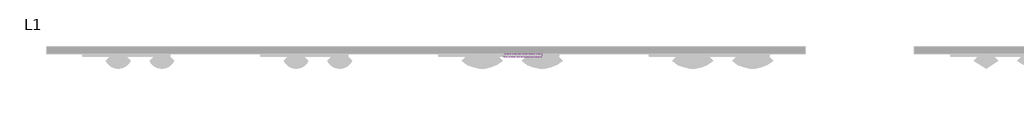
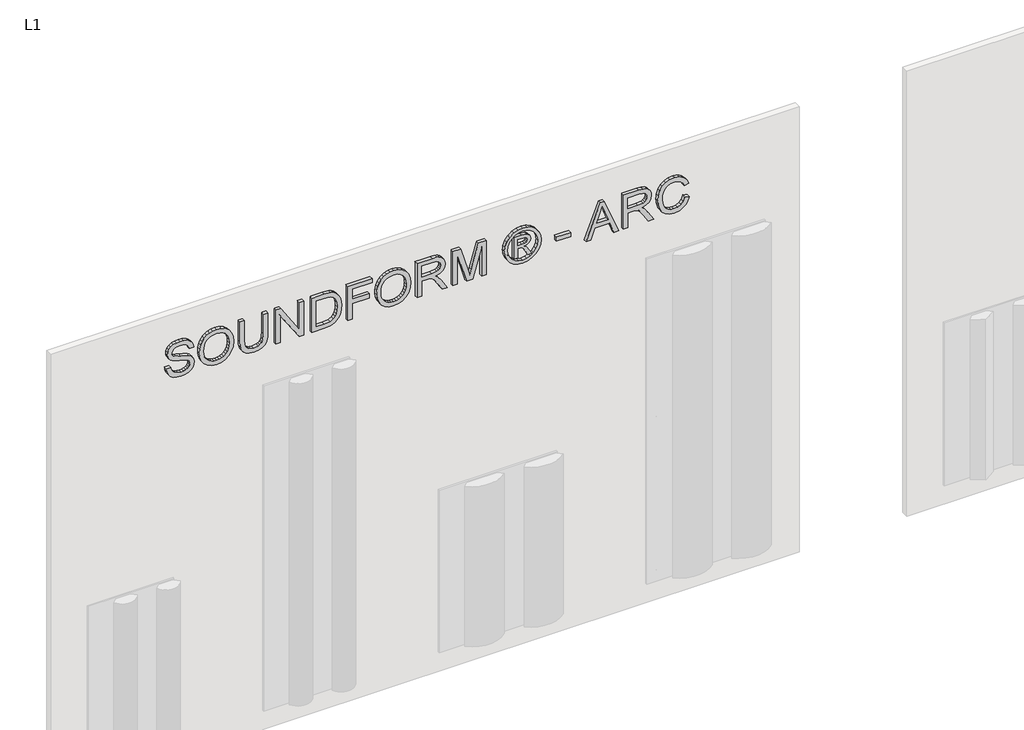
# One storey, part 4 of 17: 1 proxy.
"""IFC4 building model written with IfcOpenShell, lengths in millimetres."""

from ifc_helpers import new_model, si_unit, frame, origin, place, context, project, spatial, polyline, outline, extrude, element, save

model = new_model("IFC4")

# Units and contexts
model_context = context("Model", 3, world=origin())
ifc_project = project(units=[si_unit("LENGTHUNIT", "METRE", prefix="MILLI")], contexts=[model_context])

# Site, building, storey
site = spatial("IfcSite", under=ifc_project)
building = spatial("IfcBuilding", under=site)
storey = spatial("IfcBuildingStorey", under=building, Name="L1", Elevation=0.0)

# Proxy
placement = place(None, origin())
element("IfcBuildingElementProxy", 1, Name="10\" Arial", ObjectType="10\" Arial", at=placement, inside=storey, context=model_context, shape_type="SweptSolid", body=[
    extrude(outline(polyline([(2966.4315697, 2055.3826784), (2940.6727176, 2059.1670805), (2917.7171264, 2069.1498037), (2898.8729843, 2084.7001143), (2885.4484798, 2105.1872787), (2877.4124655, 2130.9071966), (2874.7337941, 2162.1557677), (2877.2177946, 2187.6109331), (2884.6697962, 2210.4030008), (2896.5992283, 2229.3561586), (2912.5155202, 2243.2945943), (2931.0092547, 2251.8679002), (2950.6710145, 2254.7256689), (2969.9044983, 2252.2416683), (2986.7396368, 2244.7896667), (3001.0206932, 2232.1049116), (3012.5919309, 2213.9226505), (3028.6016648, 2157.4836663), (3037.6032467, 2123.4084739), (3046.4179446, 2105.4053101), (3056.2760784, 2097.7897849), (3068.5325576, 2095.2512765), (3082.907056, 2098.8332209), (3095.0077985, 2109.5790539), (3103.2306969, 2128.1584436), (3105.971663, 2155.2410577), (3103.1995495, 2181.7007249), (3094.8832091, 2200.7784721), (3081.1472312, 2212.9882302), (3062.1162051, 2218.8439306), (3062.1162051, 2250.7388091), (3083.2496768, 2247.141291), (3102.0470979, 2238.0929881), (3117.5429006, 2223.796358), (3128.7715175, 2204.4538585), (3135.5927855, 2180.9064677), (3137.8665415, 2153.995164), (3135.6940143, 2129.1551586), (3129.176433, 2106.7134985), (3118.4617472, 2088.0173063), (3103.697907, 2074.4137045), (3086.2787558, 2066.1207247), (3067.5981373, 2063.356398), (3050.8875882, 2065.5912198), (3035.8901429, 2072.2956853), (3022.8861275, 2083.5476627), (3012.1558681, 2099.4250204), (2996.4264603, 2149.4165047), (2984.2478494, 2195.857192), (2977.636826, 2209.4685806), (2969.7643353, 2217.5357422), (2949.8611836, 2222.8307904), (2938.9051059, 2221.0631787), (2928.4629595, 2215.7603437), (2919.3679355, 2206.844417), (2912.4532255, 2194.2375302), (2908.0848108, 2178.6794327), (2906.6286725, 2160.909874), (2908.5520209, 2140.7263962), (2914.3220661, 2122.6609377), (2923.2146323, 2107.8815238), (2934.5055438, 2097.5561798), (2948.7320924, 2090.9373696), (2966.4315697, 2087.2775569), (2966.4315697, 2055.3826784)])), frame((0.0, -50.8, 0.0), z_axis=(0.0, 1.0, 0.0), x_axis=(0.0, 0.0, 1.0)), (0.0, 0.0, 1.0), 25.4),
    extrude(outline(polyline([(3002.9362548, 2290.6074071), (2970.3016269, 2294.2516462), (2939.4268239, 2305.1843633), (2912.5933886, 2323.1875272), (2892.0828637, 2348.0431063), (2879.0710615, 2378.2248809), (2874.7337941, 2412.2066313), (2878.6583592, 2444.2183123), (2890.4320546, 2473.971811), (2909.8368488, 2499.3413213), (2936.6547105, 2518.201037), (2969.2192568, 2529.9046509), (3005.864105, 2533.8058555), (3042.0261693, 2530.0993218), (3074.1390792, 2518.9797206), (3100.9102199, 2500.7896727), (3121.0469766, 2475.8717989), (3133.6616502, 2445.8613346), (3137.8665415, 2412.3935154), (3135.6278262, 2386.7475724), (3128.9116806, 2363.5700564), (3117.7181044, 2342.8609672), (3102.0470979, 2324.6203049), (3082.4203788, 2309.7396621), (3059.3596653, 2299.1106316), (3032.8649573, 2292.7332133), (3002.9362548, 2290.6074071)]), holes=[polyline([(3002.6247814, 2322.5022856), (3028.4790222, 2324.164775), (3050.3502965, 2329.1522432), (3068.2386045, 2337.4646902), (3082.1439462, 2349.1021159), (3092.5685723, 2363.044445), (3100.0147338, 2378.2716019), (3105.971663, 2412.5803994), (3102.8802893, 2437.272455), (3093.6061681, 2459.3948548), (3078.7099517, 2477.7328526), (3058.7522921, 2491.0717019), (3034.3483495, 2499.2011583), (3006.1132837, 2501.910977), (2983.6443697, 2500.3283027), (2963.8930613, 2495.5802797), (2946.8593585, 2487.6669081), (2932.5432613, 2476.5881878), (2921.2056287, 2463.0566143), (2913.1073197, 2447.784683), (2908.2483343, 2430.772394), (2906.6286725, 2412.0197473), (2908.2327607, 2393.5824674), (2913.045025, 2376.7687427), (2921.0654657, 2361.5785732), (2932.2940825, 2348.0119589), (2946.31428, 2336.8514769), (2962.7094623, 2328.8797039), (2981.4796294, 2324.0966402), (3002.6247814, 2322.5022856)])]), frame((0.0, -50.8, 0.0), z_axis=(0.0, 1.0, 0.0), x_axis=(0.0, 0.0, 1.0)), (0.0, 0.0, 1.0), 25.4),
    extrude(outline(polyline([(3133.8796816, 2745.1094254), (2987.7986465, 2745.1094254), (2947.8677537, 2741.0758446), (2933.695713, 2736.0338685), (2923.3859427, 2728.9751021), (2916.054637, 2719.5491376), (2910.8179901, 2707.4055676), (2906.6286725, 2674.9656106), (2908.7466918, 2654.5018068), (2915.1007496, 2637.4642105), (2925.3560121, 2624.3979005), (2939.1776452, 2615.847955), (2959.1353047, 2611.1291327), (2987.7986465, 2609.5561919), (3133.8796816, 2609.5561919), (3133.8796816, 2577.6613134), (2986.6773421, 2577.6613134), (2950.4607699, 2580.0830193), (2922.7941432, 2587.3481368), (2902.1668157, 2600.2742839), (2887.0681416, 2619.6790781), (2877.8173809, 2645.5703064), (2874.7337941, 2677.9557555), (2878.2768042, 2711.0653803), (2888.9058348, 2737.1357058), (2905.1803211, 2756.2134529), (2925.6596986, 2768.3453427), (2952.2050211, 2774.8395636), (2986.6773421, 2777.0043039), (3133.8796816, 2777.0043039), (3133.8796816, 2745.1094254)])), frame((0.0, -50.8, 0.0), z_axis=(0.0, 1.0, 0.0), x_axis=(0.0, 0.0, 1.0)), (0.0, 0.0, 1.0), 25.4),
    extrude(outline(polyline([(2878.7206539, 2832.8203412), (2878.7206539, 2864.7152197), (3080.9291998, 2864.7152197), (2878.7206539, 2998.0258445), (2878.7206539, 3032.1633316), (3133.8796816, 3032.1633316), (3133.8796816, 3000.2684532), (2931.7334304, 3000.2684532), (3133.8796816, 2866.9578283), (3133.8796816, 2832.8203412), (2878.7206539, 2832.8203412)])), frame((0.0, -50.8, 0.0), z_axis=(0.0, 1.0, 0.0), x_axis=(0.0, 0.0, 1.0)), (0.0, 0.0, 1.0), 25.4),
    extrude(outline(polyline([(2878.7206539, 3087.979369), (2878.7206539, 3180.2377967), (2883.0812818, 3221.2588465), (2895.8828394, 3251.7520946), (2919.0253147, 3275.0503066), (2935.6657823, 3284.73713), (2956.1840941, 3292.4928182), (2980.2843501, 3297.5854087), (3007.6706508, 3299.2829388), (3039.9081501, 3296.7755778), (3068.3456735, 3289.2534946), (3092.5160111, 3276.685542), (3111.9519527, 3259.0405726), (3123.1182749, 3241.8783871), (3130.2042953, 3221.5391726), (3133.8796816, 3176.0017582), (3133.8796816, 3087.979369), (2878.7206539, 3087.979369)]), holes=[polyline([(2910.6155323, 3119.8742474), (3101.9848032, 3119.8742474), (3101.9848032, 3175.441106), (3100.7077621, 3202.3212624), (3096.876639, 3220.667047), (3086.224248, 3238.6935713), (3068.5948523, 3253.7766718), (3042.9294423, 3263.9852132), (3008.1690083, 3267.3880604), (2981.9351593, 3265.651596), (2959.9217751, 3260.442203), (2942.0509875, 3252.1180758), (2928.2449281, 3241.0374088), (2915.225339, 3217.3654287), (2910.6155323, 3176.3132316), (2910.6155323, 3119.8742474)])]), frame((0.0, -50.8, 0.0), z_axis=(0.0, 1.0, 0.0), x_axis=(0.0, 0.0, 1.0)), (0.0, 0.0, 1.0), 25.4),
    extrude(outline(polyline([(2878.7206539, 3343.1383967), (2878.7206539, 3375.0332752), (2994.3395883, 3375.0332752), (2994.3395883, 3494.6390695), (3026.2344668, 3494.6390695), (3026.2344668, 3375.0332752), (3101.9848032, 3375.0332752), (3101.9848032, 3514.5733685), (3133.8796816, 3514.5733685), (3133.8796816, 3343.1383967), (2878.7206539, 3343.1383967)])), frame((0.0, -50.8, 0.0), z_axis=(0.0, 1.0, 0.0), x_axis=(0.0, 0.0, 1.0)), (0.0, 0.0, 1.0), 25.4),
    extrude(outline(polyline([(3002.9362548, 3546.468247), (2970.3016269, 3550.112486), (2939.4268239, 3561.0452032), (2912.5933886, 3579.048367), (2892.0828637, 3603.9039461), (2879.0710615, 3634.0857208), (2874.7337941, 3668.0674712), (2878.6583592, 3700.0791522), (2890.4320546, 3729.8326509), (2909.8368488, 3755.2021611), (2936.6547105, 3774.0618769), (2969.2192568, 3785.7654907), (3005.864105, 3789.6666954), (3042.0261693, 3785.9601616), (3074.1390792, 3774.8405604), (3100.9102199, 3756.6505126), (3121.0469766, 3731.7326388), (3133.6616502, 3701.7221745), (3137.8665415, 3668.2543552), (3135.6278262, 3642.6084123), (3128.9116806, 3619.4308962), (3117.7181044, 3598.7218071), (3102.0470979, 3580.4811448), (3082.4203788, 3565.600502), (3059.3596653, 3554.9714714), (3032.8649573, 3548.5940531), (3002.9362548, 3546.468247)]), holes=[polyline([(3002.6247814, 3578.3631255), (3028.4790222, 3580.0256149), (3050.3502965, 3585.013083), (3068.2386045, 3593.32553), (3082.1439462, 3604.9629558), (3092.5685723, 3618.9052848), (3100.0147338, 3634.1324418), (3105.971663, 3668.4412393), (3102.8802893, 3693.1332949), (3093.6061681, 3715.2556947), (3078.7099517, 3733.5936925), (3058.7522921, 3746.9325418), (3034.3483495, 3755.0619981), (3006.1132837, 3757.7718169), (2983.6443697, 3756.1891426), (2963.8930613, 3751.4411196), (2946.8593585, 3743.5277479), (2932.5432613, 3732.4490276), (2921.2056287, 3718.9174541), (2913.1073197, 3703.6455229), (2908.2483343, 3686.6332339), (2906.6286725, 3667.8805871), (2908.2327607, 3649.4433072), (2913.045025, 3632.6295825), (2921.0654657, 3617.439413), (2932.2940825, 3603.8727988), (2946.31428, 3592.7123167), (2962.7094623, 3584.7405438), (2981.4796294, 3579.9574801), (3002.6247814, 3578.3631255)])]), frame((0.0, -50.8, 0.0), z_axis=(0.0, 1.0, 0.0), x_axis=(0.0, 0.0, 1.0)), (0.0, 0.0, 1.0), 25.4),
    extrude(outline(polyline([(2878.7206539, 3833.5221533), (2878.7206539, 3865.4170317), (2990.3527285, 3865.4170317), (2990.3527285, 3903.9151468), (2989.2314242, 3922.4166681), (2983.1576925, 3937.5854237), (2966.6184537, 3954.4361359), (2931.608841, 3978.4195894), (2878.7206539, 4011.6226563), (2878.7206539, 4048.6879936), (2947.8677537, 4006.1407241), (2980.6970524, 3980.28843), (2994.3395883, 3962.1606768), (3002.7960918, 3993.5805583), (3018.0738631, 4015.5783688), (3038.9114351, 4028.54345), (3064.0473403, 4032.8651437), (3084.2541786, 4030.2565538), (3102.6388974, 4022.4307841), (3117.4650323, 4010.2365996), (3126.996119, 3994.5227654), (3132.158791, 3973.0233124), (3133.8796816, 3943.4722714), (3133.8796816, 3833.5221533), (2878.7206539, 3833.5221533)]), holes=[polyline([(3022.247607, 3865.4170317), (3101.9848032, 3865.4170317), (3101.9848032, 3944.8427545), (3099.2282634, 3970.0798886), (3090.958644, 3987.483466), (3078.4218388, 3997.5985654), (3062.8637413, 4000.9702652), (3051.5961902, 3999.2026536), (3041.2163384, 3993.8998185), (3032.6352456, 3985.1941364), (3026.7639716, 3973.2179833), (3022.247607, 3936.8067402), (3022.247607, 3865.4170317)])]), frame((0.0, -50.8, 0.0), z_axis=(0.0, 1.0, 0.0), x_axis=(0.0, 0.0, 1.0)), (0.0, 0.0, 1.0), 25.4),
    extrude(outline(polyline([(2878.7206539, 4088.681181), (2878.7206539, 4120.5760595), (3101.9848032, 4120.5760595), (2878.7206539, 4184.7395846), (2878.7206539, 4227.9098009), (3101.9848032, 4292.0110313), (2878.7206539, 4292.0110313), (2878.7206539, 4323.9059098), (3133.8796816, 4323.9059098), (3133.8796816, 4269.0242927), (2957.1496617, 4217.6934727), (2916.4712327, 4206.2935454), (2954.0349274, 4195.703449), (3133.8796816, 4143.375914), (3133.8796816, 4088.681181), (2878.7206539, 4088.681181)])), frame((0.0, -50.8, 0.0), z_axis=(0.0, 1.0, 0.0), x_axis=(0.0, 0.0, 1.0)), (0.0, 0.0, 1.0), 25.4),
    extrude(outline(polyline([(2926.5629716, 4523.2489002), (2926.5629716, 4547.1700591), (2994.3395883, 4547.1700591), (2994.3395883, 4562.0584887), (2993.0936946, 4573.8477577), (2988.483888, 4582.4288505), (2951.8546135, 4605.9762413), (2926.5629716, 4619.9925453), (2926.5629716, 4646.8415543), (2958.0217873, 4628.9629798), (2989.854371, 4607.222135), (2998.3264481, 4594.763198), (3002.7182234, 4612.7352145), (3012.7788149, 4626.7826659), (3026.795119, 4635.8465425), (3043.0540316, 4638.8678347), (3055.0379716, 4637.1157967), (3066.3210963, 4631.8596827), (3075.618578, 4623.6445712), (3081.6455887, 4613.0155406), (3086.0373639, 4574.7666043), (3086.0373639, 4523.2489002), (2926.5629716, 4523.2489002)]), holes=[polyline([(3018.2607472, 4547.1700591), (3062.1162051, 4547.1700591), (3062.1162051, 4575.5141405), (3059.6244177, 4600.5877511), (3052.0244662, 4611.1467001), (3040.4376549, 4614.9466758), (3031.3971388, 4612.9688196), (3024.3344789, 4607.0352509), (3019.7791801, 4595.6820446), (3018.2607472, 4577.4452758), (3018.2607472, 4547.1700591)])]), frame((0.0, -50.8, 0.0), z_axis=(0.0, 1.0, 0.0), x_axis=(0.0, 0.0, 1.0)), (0.0, 0.0, 1.0), 25.4),
    extrude(outline(polyline([(3137.8665415, 4583.114092), (3133.6149292, 4550.4093827), (3120.8600926, 4518.4522095), (3100.193831, 4490.3417331), (3072.207944, 4469.1771141), (3039.8925764, 4455.9083463), (3006.2378731, 4451.4854237), (2972.8790695, 4455.8460516), (2940.8284543, 4468.9279353), (2912.9437962, 4489.8355888), (2892.0828637, 4517.673526), (2879.0710615, 4549.685207), (2874.7337941, 4583.114092), (2879.0710615, 4616.5896981), (2892.0828637, 4648.6169528), (2912.9437962, 4676.4315295), (2940.8284543, 4697.2691014), (2972.8790695, 4710.2809037), (3006.2378731, 4714.6181711), (3039.8925764, 4710.218609), (3072.207944, 4697.0199227), (3100.193831, 4675.9253851), (3120.8600926, 4647.8382693), (3133.6149292, 4615.8655224), (3137.8665415, 4583.114092)]), holes=[polyline([(3113.9453826, 4583.114092), (3110.4646671, 4609.8462985), (3100.0225206, 4635.9711319), (3083.1017269, 4658.9500836), (3060.1850699, 4676.2446454), (3033.7409763, 4687.0839205), (3006.2378731, 4690.6970122), (2978.9138671, 4687.1462152), (2952.7578864, 4676.4938241), (2930.0125397, 4659.4328674), (2912.9204357, 4636.6563734), (2902.2213236, 4610.4536717), (2898.6549529, 4583.114092), (2902.2213236, 4555.8134466), (2912.9204357, 4529.602958), (2930.0125397, 4506.7875298), (2952.7578864, 4489.6720653), (2978.9138671, 4478.9729532), (3006.2378731, 4475.4065825), (3033.7409763, 4479.0430347), (3060.1850699, 4489.9523914), (3083.1017269, 4507.2936742), (3100.0225206, 4530.2259049), (3110.4646671, 4556.311804), (3113.9453826, 4583.114092)])]), frame((0.0, -50.8, 0.0), z_axis=(0.0, 1.0, 0.0), x_axis=(0.0, 0.0, 1.0)), (0.0, 0.0, 1.0), 25.4),
    extrude(outline(polyline([(4921.9348811, -50.8), (4822.2633859, -50.8), (4822.2633859, -25.4), (4921.9348811, -25.4), (4921.9348811, -50.8)])), frame((0.0, 0.0, 2954.4709902), z_axis=(0.0, 0.0, 1.0), x_axis=(1.0, 0.0, 0.0)), (0.0, 0.0, 1.0), 31.8948785),
    extrude(outline(polyline([(2878.7206539, 5031.8227046), (2878.7206539, 5065.4618343), (2958.45785, 5094.6157466), (2958.45785, 5199.7691741), (2878.7206539, 5228.9230864), (2878.7206539, 5262.6245108), (3133.8796816, 5160.8349963), (3133.8796816, 5133.6745138), (2878.7206539, 5031.8227046)]), holes=[polyline([(2990.3527285, 5106.3271473), (3058.5654081, 5131.3073158), (3101.9848032, 5147.1924603), (3053.0834758, 5165.0710348), (2990.3527285, 5188.1200681), (2990.3527285, 5106.3271473)])]), frame((0.0, -50.8, 0.0), z_axis=(0.0, 1.0, 0.0), x_axis=(0.0, 0.0, 1.0)), (0.0, 0.0, 1.0), 25.4),
    extrude(outline(polyline([(2878.7206539, 5296.6997032), (2878.7206539, 5328.5945817), (2990.3527285, 5328.5945817), (2990.3527285, 5367.0926967), (2989.2314242, 5385.594218), (2983.1576925, 5400.7629737), (2966.6184537, 5417.6136858), (2931.608841, 5441.5971394), (2878.7206539, 5474.8002062), (2878.7206539, 5511.8655435), (2947.8677537, 5469.318274), (2980.6970524, 5443.4659799), (2994.3395883, 5425.3382267), (3002.7960918, 5456.7581082), (3018.0738631, 5478.7559187), (3038.9114351, 5491.7209999), (3064.0473403, 5496.0426936), (3084.2541786, 5493.4341037), (3102.6388974, 5485.608334), (3117.4650323, 5473.4141495), (3126.996119, 5457.7003153), (3132.158791, 5436.2008623), (3133.8796816, 5406.6498214), (3133.8796816, 5296.6997032), (2878.7206539, 5296.6997032)]), holes=[polyline([(3022.247607, 5328.5945817), (3101.9848032, 5328.5945817), (3101.9848032, 5408.0203044), (3099.2282634, 5433.2574385), (3090.958644, 5450.661016), (3078.4218388, 5460.7761154), (3062.8637413, 5464.1478152), (3051.5961902, 5462.3802035), (3041.2163384, 5457.0773685), (3032.6352456, 5448.3716863), (3026.7639716, 5436.3955332), (3022.247607, 5399.9842901), (3022.247607, 5328.5945817)])]), frame((0.0, -50.8, 0.0), z_axis=(0.0, 1.0, 0.0), x_axis=(0.0, 0.0, 1.0)), (0.0, 0.0, 1.0), 25.4),
    extrude(outline(polyline([(2969.4217145, 5731.2674224), (2942.1054954, 5720.9498652), (2922.4515224, 5704.2003819), (2910.584385, 5682.0156874), (2906.6286725, 5655.3924966), (2909.5331622, 5632.5537079), (2918.2466312, 5611.381302), (2932.8313742, 5593.720759), (2953.3496859, 5581.4175588), (2978.8282119, 5574.1991622), (3008.2935977, 5571.79303), (3032.3549196, 5573.8253941), (3055.6998526, 5579.9224863), (3076.3505405, 5591.0343007), (3092.3291271, 5608.1108311), (3102.561029, 5630.6147859), (3105.971663, 5658.0088734), (3102.8958629, 5681.7742955), (3093.6684628, 5701.1167951), (3077.7132367, 5716.2232561), (3054.4539589, 5727.2805626), (3062.0539104, 5759.175441), (3094.0733782, 5745.0890555), (3117.9945371, 5723.137966), (3132.8985404, 5694.2254456), (3137.8665415, 5659.2547671), (3134.0276315, 5627.2041519), (3122.5109017, 5597.9567975), (3103.5966781, 5573.2958893), (3077.5652868, 5555.0046125), (3045.4368033, 5543.6747668), (3008.231303, 5539.8981515), (2972.9569379, 5543.238704), (2940.0186234, 5553.2603614), (2912.0015891, 5569.6750107), (2891.4910642, 5592.1945392), (2878.9231116, 5621.5742698), (2874.7337941, 5658.5695255), (2880.2702341, 5695.011916), (2896.8795544, 5725.3494273), (2909.2041684, 5737.9446339), (2924.03225, 5748.4451816), (2961.1988162, 5763.1623008), (2969.4217145, 5731.2674224)])), frame((0.0, -50.8, 0.0), z_axis=(0.0, 1.0, 0.0), x_axis=(0.0, 0.0, 1.0)), (0.0, 0.0, 1.0), 25.4),
])

save(model, "model.ifc")
